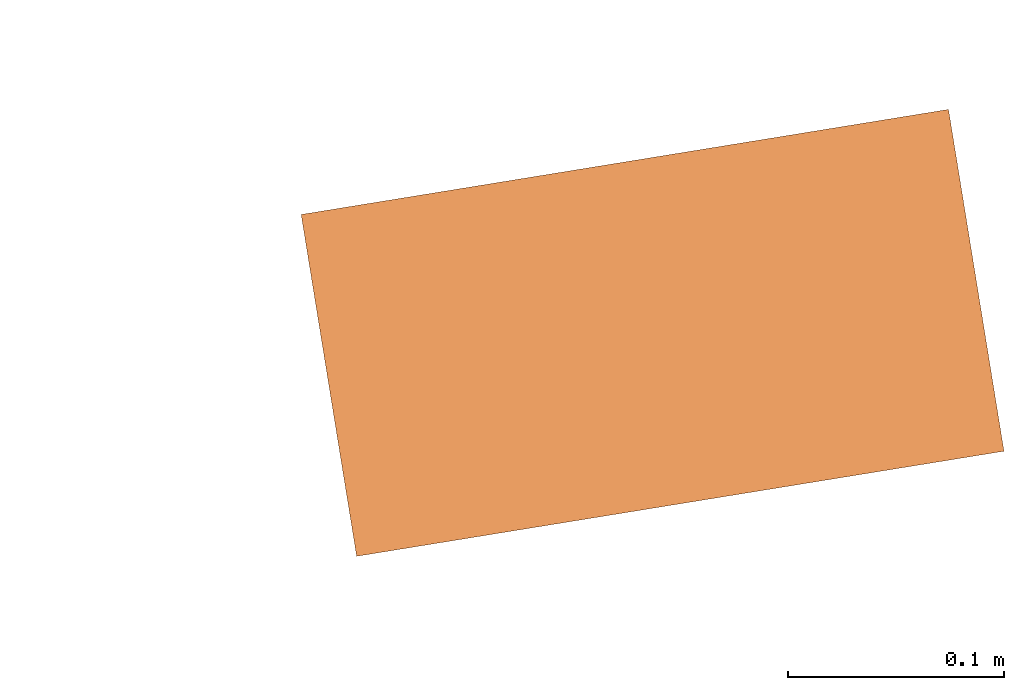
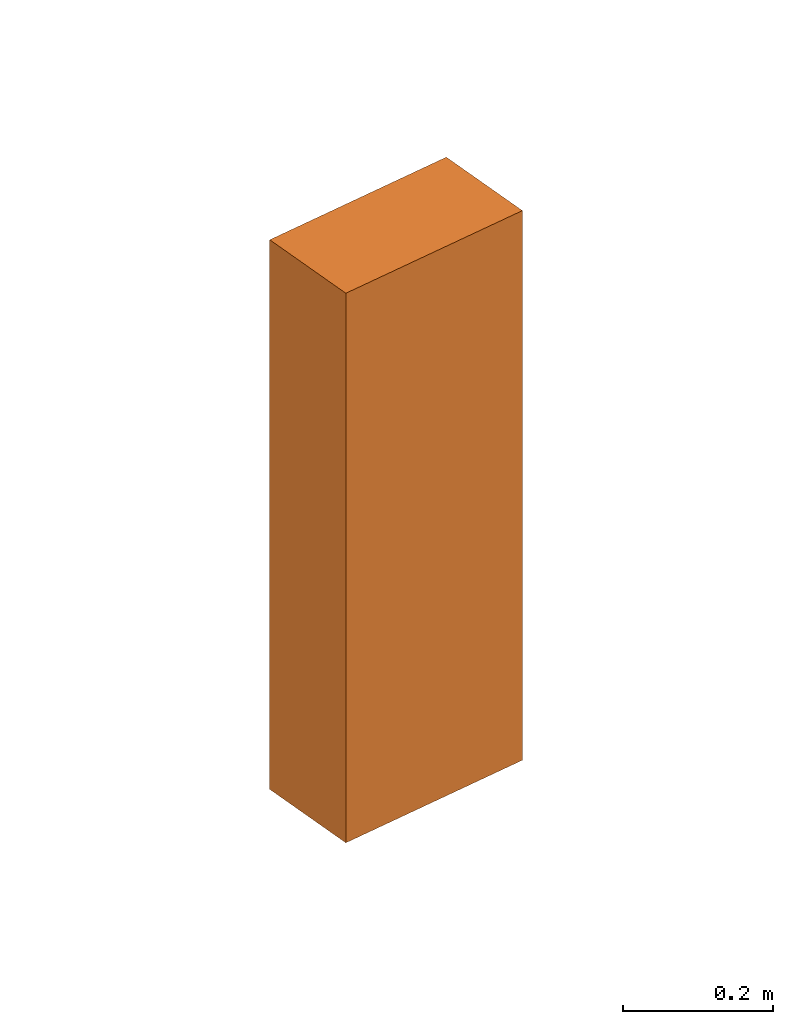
# One storey, part 4 of 4: 1 proxy.
"""IFC2X3 building model written with IfcOpenShell, lengths in millimetres."""

from ifc_helpers import new_model, entity, si_unit, converted_unit, derived_unit, direction, frame, origin, origin_with_axes, origin_2d_with_axis, place, context, subcontext, project, spatial, rectangle, extrude, source, transform, mapped, material, type_object, element, save


model = new_model("IFC2X3")

# Units and contexts
model_context = context("Model", 3, precision=0.01, world=origin(), true_north=direction((6.12323399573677e-17, 1.0)))
plan_context = context("Plan", 3, precision=1e-05, world=origin_with_axes())
body_context = subcontext(model_context, "Body", "Model", "MODEL_VIEW")
ifc_project = project(units=[converted_unit("PLANEANGLEUNIT", "DEGREE", entity("IfcPositiveLengthMeasure", 0.0174532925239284), si_unit("PLANEANGLEUNIT", "RADIAN"), dimensions=[0, 0, 0, 0, 0, 0, 0]), si_unit("AREAUNIT", "SQUARE_METRE"), si_unit("LENGTHUNIT", "METRE", prefix="MILLI"), si_unit("MASSUNIT", "GRAM", prefix="KILO"), si_unit("POWERUNIT", "WATT"), si_unit("PRESSUREUNIT", "PASCAL", prefix="KILO"), si_unit("FORCEUNIT", "NEWTON", prefix="KILO"), si_unit("ELECTRICVOLTAGEUNIT", "VOLT"), si_unit("ELECTRICCURRENTUNIT", "AMPERE"), si_unit("THERMODYNAMICTEMPERATUREUNIT", "DEGREE_CELSIUS"), si_unit("TIMEUNIT", "SECOND"), si_unit("VOLUMEUNIT", "CUBIC_METRE"), derived_unit("LINEARVELOCITYUNIT", [(si_unit("LENGTHUNIT", "METRE"), 1), (si_unit("TIMEUNIT", "SECOND"), -1)]), derived_unit("VOLUMETRICFLOWRATEUNIT", [(si_unit("VOLUMEUNIT", "CUBIC_METRE"), 1), (si_unit("TIMEUNIT", "SECOND"), -1)]), derived_unit("THERMALTRANSMITTANCEUNIT", [(si_unit("POWERUNIT", "WATT"), 1), (si_unit("THERMODYNAMICTEMPERATUREUNIT", "KELVIN"), -1), (si_unit("AREAUNIT", "SQUARE_METRE"), -1)]), derived_unit("SOUNDPRESSUREUNIT", [(si_unit("PRESSUREUNIT", "PASCAL"), 1)])], contexts=[model_context, plan_context])

# Site, building, storey
site_placement = place(None, frame((-743.430438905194, 3176.84670324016, 0.0), z_axis=(0.0, 0.0, 1.0), x_axis=(-0.160236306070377, 0.987078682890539, 0.0)))
site = spatial("IfcSite", under=ifc_project, at=site_placement, Name="Default", CompositionType="ELEMENT")
building_placement = place(site_placement, origin_with_axes())
building = spatial("IfcBuilding", under=site, at=building_placement, CompositionType="ELEMENT")
storey_placement = place(building_placement, frame((0.0, 0.0, 50999.9999999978), z_axis=(0.0, 0.0, 1.0), x_axis=(1.0, 0.0, 0.0)))
storey = spatial("IfcBuildingStorey", under=building, at=storey_placement, Name="Nivå D", CompositionType="ELEMENT", Elevation=50999.9999999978)

# Proxy
ifc_material = material(Name="<Unnamed>")
building_element_proxy_type = type_object("IfcBuildingElementProxyType", Name="Høyttaler line array:TOA Sr-S4s", PredefinedType="NOTDEFINED", material=ifc_material)
shared_shape = source(origin(), body_context, "Body", "SweptSolid", [
    extrude(rectangle(XDim=303.0, YDim=160.0, at=origin_2d_with_axis()), frame((130.0, 0.0, 0.0), z_axis=(0.0, 0.0, 1.0), x_axis=(-1.0, 0.0, 0.0)), (0.0, 0.0, 1.0), 892.0),
])
proxy_placement = place(storey_placement, frame((770877.619644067, -604254.980498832, 2950.0), z_axis=(0.0, 0.0, 1.0), x_axis=(0.0, -1.0, 0.0)))
element("IfcBuildingElementProxy", 1, at=proxy_placement, inside=storey, type_object=building_element_proxy_type, material=ifc_material, Name="Høyttaler line array:TOA Sr-S4s", ObjectType="Høyttaler line array:TOA Sr-S4s", context=body_context, shape_type="MappedRepresentation", body=[
    mapped(shared_shape, transform((0.0, 0.0, 0.0), scale=1.0)),
])

save(model, "model.ifc")
